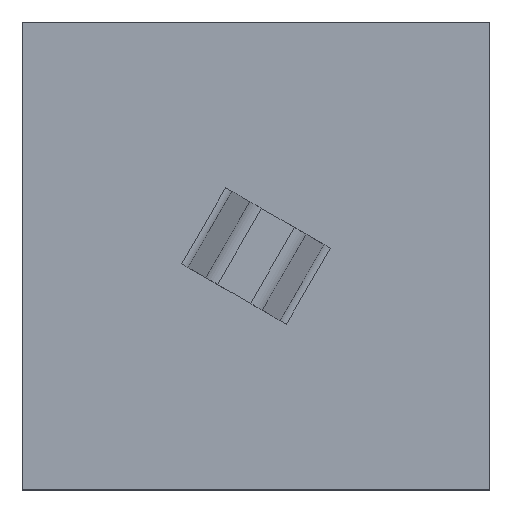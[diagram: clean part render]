
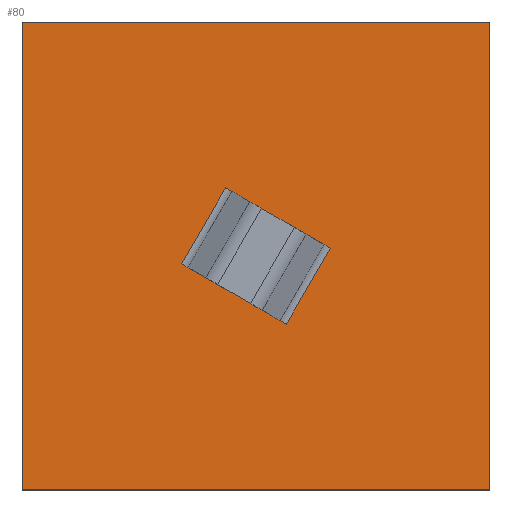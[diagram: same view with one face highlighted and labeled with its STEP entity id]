
A CAD part, top view. The second image highlights one B-rep face of the part: STEP entity #80.
In plain terms, the highlighted planar face has unit normal (0, 0, 1).
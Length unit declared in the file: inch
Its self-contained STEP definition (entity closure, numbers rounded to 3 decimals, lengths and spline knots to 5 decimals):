
#80=ADVANCED_FACE('',(#111,#112),#113,.T.);
#111=FACE_OUTER_BOUND('',#161,.T.);
#112=FACE_BOUND('',#162,.T.);
#113=PLANE('',#163);
#161=EDGE_LOOP('',(#239,#240,#241,#242));
#162=EDGE_LOOP('',(#243,#244,#245,#246,#247,#248,#249,#250));
#163=AXIS2_PLACEMENT_3D('',#251,#252,#253);
#239=ORIENTED_EDGE('',*,*,#411,.T.);
#240=ORIENTED_EDGE('',*,*,#414,.T.);
#241=ORIENTED_EDGE('',*,*,#422,.T.);
#242=ORIENTED_EDGE('',*,*,#423,.T.);
#243=ORIENTED_EDGE('',*,*,#424,.T.);
#244=ORIENTED_EDGE('',*,*,#425,.T.);
#245=ORIENTED_EDGE('',*,*,#426,.T.);
#246=ORIENTED_EDGE('',*,*,#427,.T.);
#247=ORIENTED_EDGE('',*,*,#428,.T.);
#248=ORIENTED_EDGE('',*,*,#429,.F.);
#249=ORIENTED_EDGE('',*,*,#430,.T.);
#250=ORIENTED_EDGE('',*,*,#431,.F.);
#251=CARTESIAN_POINT('',(-24.29074,0.0,0.1));
#252=DIRECTION('',(0.,0.0,1.0));
#253=DIRECTION('',(-0.0,-1.0,0.0));
#411=EDGE_CURVE('',#477,#481,#483,.T.);
#414=EDGE_CURVE('',#481,#486,#488,.T.);
#422=EDGE_CURVE('',#486,#500,#502,.T.);
#423=EDGE_CURVE('',#500,#477,#503,.T.);
#424=EDGE_CURVE('',#504,#505,#506,.T.);
#425=EDGE_CURVE('',#505,#507,#508,.T.);
#426=EDGE_CURVE('',#507,#509,#510,.T.);
#427=EDGE_CURVE('',#509,#511,#512,.T.);
#428=EDGE_CURVE('',#511,#513,#514,.T.);
#429=EDGE_CURVE('',#515,#513,#516,.T.);
#430=EDGE_CURVE('',#515,#517,#518,.T.);
#431=EDGE_CURVE('',#504,#517,#519,.T.);
#477=VERTEX_POINT('',#589);
#481=VERTEX_POINT('',#595);
#483=LINE('',#598,#599);
#486=VERTEX_POINT('',#603);
#488=LINE('',#606,#607);
#500=VERTEX_POINT('',#625);
#502=LINE('',#628,#629);
#503=LINE('',#630,#631);
#504=VERTEX_POINT('',#632);
#505=VERTEX_POINT('',#633);
#506=LINE('',#634,#635);
#507=VERTEX_POINT('',#636);
#508=LINE('',#637,#638);
#509=VERTEX_POINT('',#639);
#510=LINE('',#640,#641);
#511=VERTEX_POINT('',#642);
#512=LINE('',#643,#644);
#513=VERTEX_POINT('',#645);
#514=LINE('',#646,#647);
#515=VERTEX_POINT('',#648);
#516=LINE('',#649,#650);
#517=VERTEX_POINT('',#651);
#518=LINE('',#652,#653);
#519=LINE('',#654,#655);
#589=CARTESIAN_POINT('',(-13.14537,-0.08365,0.1));
#595=CARTESIAN_POINT('',(-11.14537,-0.08365,0.1));
#598=CARTESIAN_POINT('',(-9704.90759,-0.08365,0.1));
#599=VECTOR('',#755,1.);
#603=CARTESIAN_POINT('',(-11.14537,1.91635,0.1));
#606=CARTESIAN_POINT('',(-11.14537,14961.74882,0.1));
#607=VECTOR('',#758,1.);
#625=CARTESIAN_POINT('',(-13.14537,1.91635,0.1));
#628=CARTESIAN_POINT('',(-27076.03815,1.91635,0.1));
#629=VECTOR('',#766,1.);
#630=CARTESIAN_POINT('',(-13.14537,26115.19325,0.1));
#631=VECTOR('',#767,1.);
#632=CARTESIAN_POINT('',(-11.90526,0.99423,0.1));
#633=CARTESIAN_POINT('',(-11.82824,0.94976,0.1));
#634=CARTESIAN_POINT('',(-11.86635,0.97176,0.1));
#635=VECTOR('',#768,0.044);
#636=CARTESIAN_POINT('',(-12.01574,0.625,0.1));
#637=CARTESIAN_POINT('',(-11.82824,0.94976,0.1));
#638=VECTOR('',#769,0.375);
#639=CARTESIAN_POINT('',(-12.09276,0.66947,0.1));
#640=CARTESIAN_POINT('',(-12.05385,0.647,0.1));
#641=VECTOR('',#770,0.04494);
#642=CARTESIAN_POINT('',(-12.38548,0.83847,0.1));
#643=CARTESIAN_POINT('',(-12.09276,0.66947,0.1));
#644=VECTOR('',#771,0.338);
#645=CARTESIAN_POINT('',(-12.4625,0.88294,0.1));
#646=CARTESIAN_POINT('',(-12.38548,0.83847,0.1));
#647=VECTOR('',#772,0.04494);
#648=CARTESIAN_POINT('',(-12.275,1.2077,0.1));
#649=CARTESIAN_POINT('',(-12.275,1.2077,0.1));
#650=VECTOR('',#773,0.375);
#651=CARTESIAN_POINT('',(-12.19798,1.16323,0.1));
#652=CARTESIAN_POINT('',(-12.275,1.2077,0.1));
#653=VECTOR('',#774,0.044);
#654=CARTESIAN_POINT('',(-11.90526,0.99423,0.1));
#655=VECTOR('',#775,0.338);
#755=DIRECTION('',(1.0,-0.0,0.));
#758=DIRECTION('',(0.0,1.0,0.0));
#766=DIRECTION('',(-1.0,0.0,0.));
#767=DIRECTION('',(-0.0,-1.0,0.0));
#768=DIRECTION('',(0.866,-0.5,0.));
#769=DIRECTION('',(-0.5,-0.866,0.));
#770=DIRECTION('',(-0.866,0.5,0.));
#771=DIRECTION('',(-0.866,0.5,0.));
#772=DIRECTION('',(-0.866,0.5,0.));
#773=DIRECTION('',(-0.5,-0.866,0.));
#774=DIRECTION('',(0.866,-0.5,0.));
#775=DIRECTION('',(-0.866,0.5,0.));
